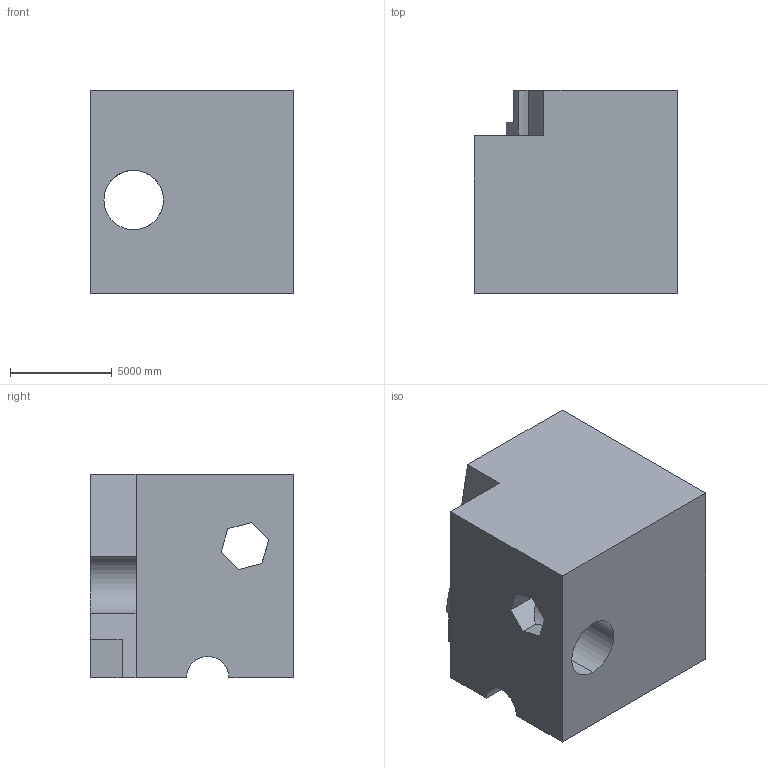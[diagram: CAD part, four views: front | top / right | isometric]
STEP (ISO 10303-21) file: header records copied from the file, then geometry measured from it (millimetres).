
FILE_DESCRIPTION (( 'STEP AP203' ), '1' );
FILE_NAME ('1474.STEP', '2022-08-18T14:41:43', ( 'user' ), ( '' ), 'SwSTEP 2.0', 'SolidWorks 2021', '' );
FILE_SCHEMA (( 'CONFIG_CONTROL_DESIGN' ));
Length unit declared in the file: centimetre
Products named in the file (1): 1474
Bounding box: 10000 x 10000 x 10000 mm (x, y, z)
Volume: 831896060724.7 mm3; surface area: 711725859.6 mm2
Topology: 1 solids, 1 shells, 24 faces, 75 edges, 50 vertices
Faces by surface type: plane 20, cylinder 4
Entity records: 918 total; most frequent: CARTESIAN_POINT 168, ORIENTED_EDGE 150, DIRECTION 129, EDGE_CURVE 75, LINE 59, VECTOR 59, VERTEX_POINT 50, AXIS2_PLACEMENT_3D 35
